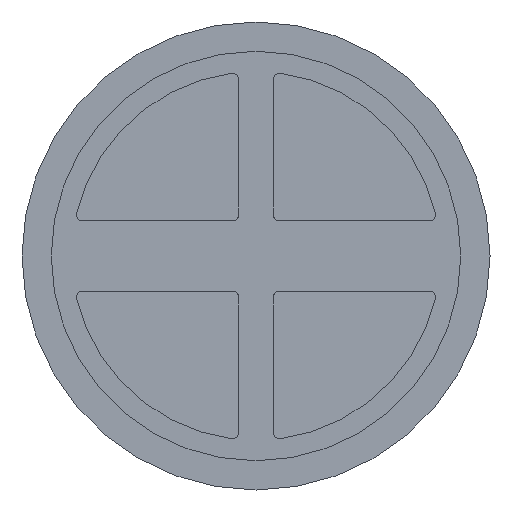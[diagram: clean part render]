
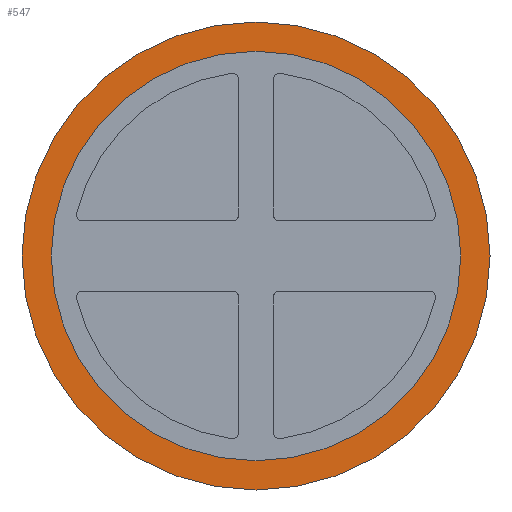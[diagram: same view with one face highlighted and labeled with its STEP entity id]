
A CAD part, front view. The second image highlights one B-rep face of the part: STEP entity #547.
In plain terms, the highlighted planar face has unit normal (0, -1, 0).
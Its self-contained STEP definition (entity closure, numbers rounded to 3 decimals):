
#206 = ORIENTED_EDGE ( 'NONE', *, *, #1507, .T. ) ;
#270 = EDGE_CURVE ( 'NONE', #3094, #1672, #2761, .T. ) ;
#397 = CARTESIAN_POINT ( 'NONE',  ( 0., 2., -35. ) ) ;
#438 = DIRECTION ( 'NONE',  ( 0., 0., 1. ) ) ;
#476 = DIRECTION ( 'NONE',  ( 0., 0., 1. ) ) ;
#529 = CARTESIAN_POINT ( 'NONE',  ( 0., 2., -40. ) ) ;
#547 = ADVANCED_FACE ( 'NONE', ( #3060, #634 ), #3339, .F. ) ;
#561 = CIRCLE ( 'NONE', #3163, 35. ) ;
#606 = ORIENTED_EDGE ( 'NONE', *, *, #270, .T. ) ;
#634 = FACE_OUTER_BOUND ( 'NONE', #3236, .T. ) ;
#655 = DIRECTION ( 'NONE',  ( 0., 1., 0. ) ) ;
#707 = DIRECTION ( 'NONE',  ( 0., 1., 0. ) ) ;
#709 = CARTESIAN_POINT ( 'NONE',  ( 0., 2., 35. ) ) ;
#861 = DIRECTION ( 'NONE',  ( 0., 0., 1. ) ) ;
#1026 = VERTEX_POINT ( 'NONE', #1551 ) ;
#1118 = AXIS2_PLACEMENT_3D ( 'NONE', #1789, #707, #476 ) ;
#1286 = DIRECTION ( 'NONE',  ( 0., 1., 0. ) ) ;
#1388 = CARTESIAN_POINT ( 'NONE',  ( 0., 2., 0. ) ) ;
#1417 = EDGE_LOOP ( 'NONE', ( #606, #206 ) ) ;
#1467 = AXIS2_PLACEMENT_3D ( 'NONE', #3146, #1795, #2865 ) ;
#1507 = EDGE_CURVE ( 'NONE', #1672, #3094, #561, .T. ) ;
#1537 = CARTESIAN_POINT ( 'NONE',  ( 0., 2., 0. ) ) ;
#1551 = CARTESIAN_POINT ( 'NONE',  ( 0., 2., 40. ) ) ;
#1672 = VERTEX_POINT ( 'NONE', #709 ) ;
#1708 = ORIENTED_EDGE ( 'NONE', *, *, #2285, .F. ) ;
#1749 = EDGE_CURVE ( 'NONE', #1026, #3269, #3105, .T. ) ;
#1789 = CARTESIAN_POINT ( 'NONE',  ( 0., 2., 0. ) ) ;
#1795 = DIRECTION ( 'NONE',  ( 0., 1., 0. ) ) ;
#1896 = CARTESIAN_POINT ( 'NONE',  ( 0., 2., 0. ) ) ;
#2027 = AXIS2_PLACEMENT_3D ( 'NONE', #1537, #655, #438 ) ;
#2285 = EDGE_CURVE ( 'NONE', #3269, #1026, #3326, .T. ) ;
#2463 = DIRECTION ( 'NONE',  ( 0., 1., 0. ) ) ;
#2606 = AXIS2_PLACEMENT_3D ( 'NONE', #1388, #2463, #861 ) ;
#2761 = CIRCLE ( 'NONE', #1467, 35. ) ;
#2865 = DIRECTION ( 'NONE',  ( 0., 0., 1. ) ) ;
#3021 = ORIENTED_EDGE ( 'NONE', *, *, #1749, .F. ) ;
#3060 = FACE_BOUND ( 'NONE', #1417, .T. ) ;
#3094 = VERTEX_POINT ( 'NONE', #397 ) ;
#3105 = CIRCLE ( 'NONE', #2027, 40. ) ;
#3146 = CARTESIAN_POINT ( 'NONE',  ( 0., 2., 0. ) ) ;
#3163 = AXIS2_PLACEMENT_3D ( 'NONE', #1896, #1286, #3463 ) ;
#3236 = EDGE_LOOP ( 'NONE', ( #1708, #3021 ) ) ;
#3269 = VERTEX_POINT ( 'NONE', #529 ) ;
#3326 = CIRCLE ( 'NONE', #2606, 40. ) ;
#3339 = PLANE ( 'NONE',  #1118 ) ;
#3463 = DIRECTION ( 'NONE',  ( 0., 0., 1. ) ) ;
